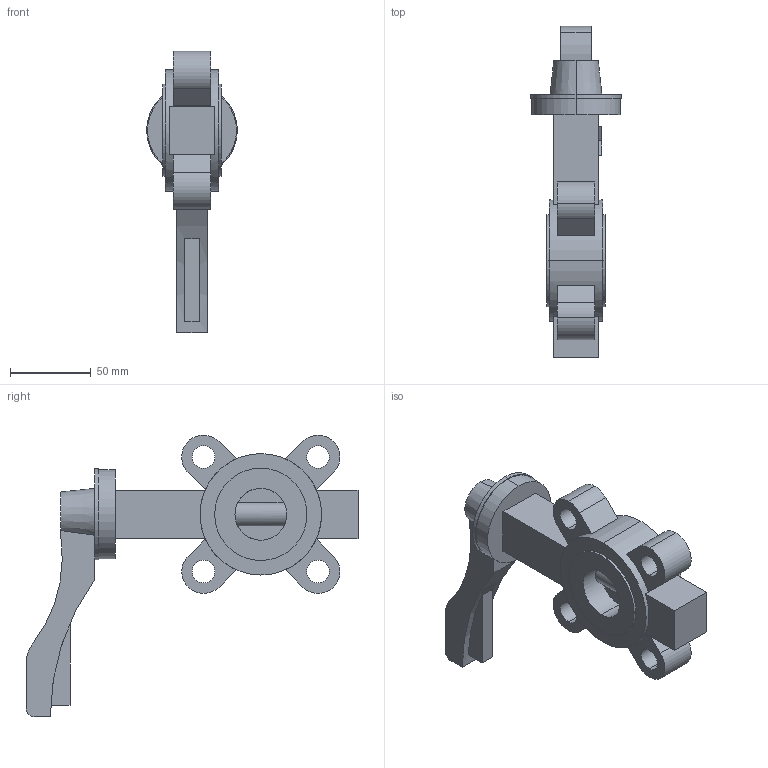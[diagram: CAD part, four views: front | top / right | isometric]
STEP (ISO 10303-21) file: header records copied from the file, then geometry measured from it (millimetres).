
FILE_DESCRIPTION (( 'STEP AP214' ), '1' );
FILE_NAME ('E124_032.STEP', '2021-05-27T16:02:21', ( '' ), ( '' ), 'SwSTEP 2.0', 'SolidWorks 2020', '' );
FILE_SCHEMA (( 'AUTOMOTIVE_DESIGN' ));
Length unit declared in the file: millimetre
Products named in the file (1): E124_032
Bounding box: 56 x 205 x 173.86 mm (x, y, z)
Volume: 327134.8 mm3; surface area: 57581.6 mm2
Topology: 1 solids, 1 shells, 97 faces, 241 edges, 160 vertices
Faces by surface type: plane 61, cylinder 34, cone 2
Entity records: 4088 total; most frequent: CARTESIAN_POINT 641, DIRECTION 519, ORIENTED_EDGE 482, EDGE_CURVE 241, AXIS2_PLACEMENT_3D 186, VERTEX_POINT 160, VECTOR 147, LINE 147
